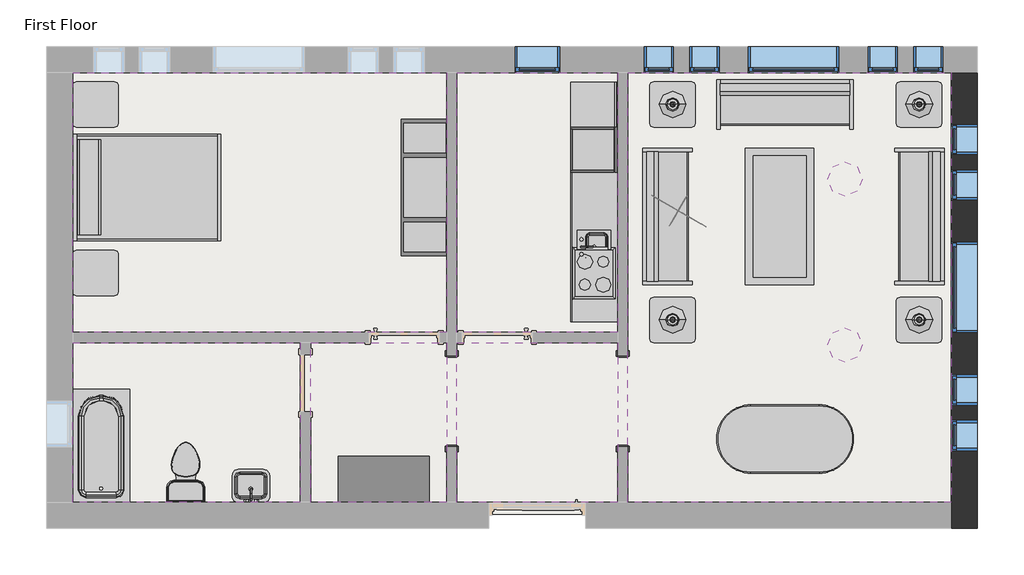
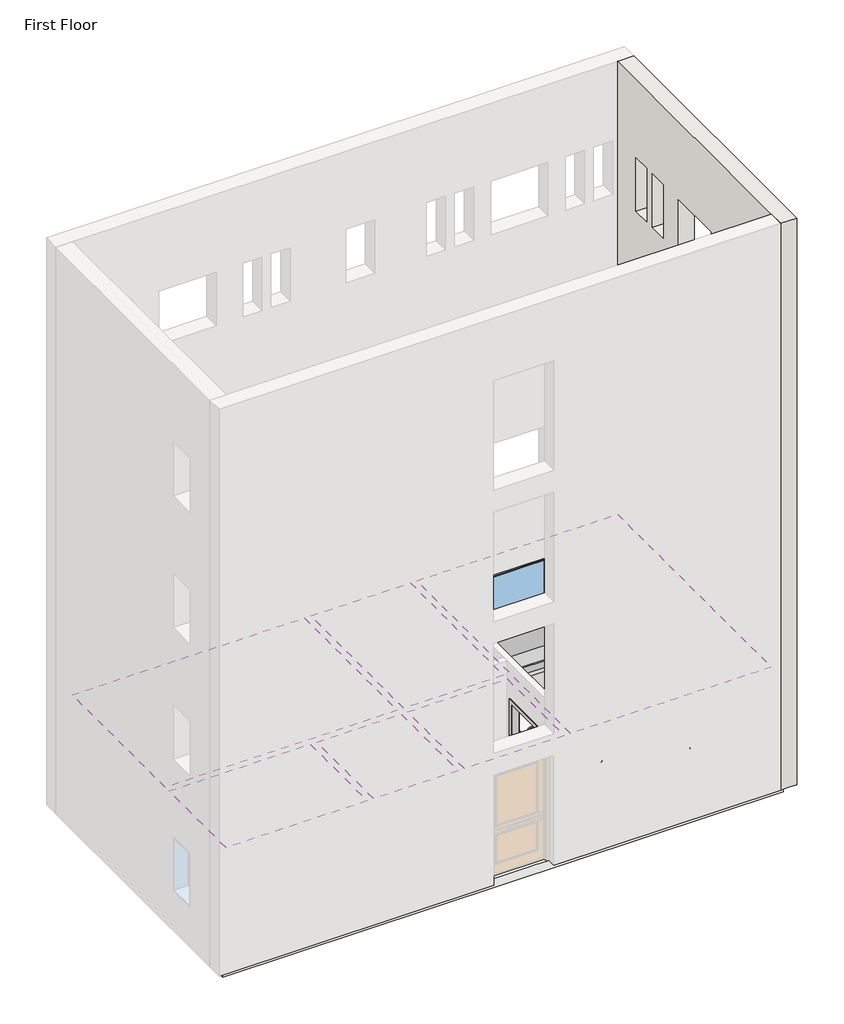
# One storey, part 2 of 2: 15 furniture elements, 11 windows, 7 proxies, 6 coverings, 6 light fixtures, 4 flow terminals, 1 slab, 1 wall.
"""IFC4 building model written with IfcOpenShell, lengths in millimetres."""

from ifc_helpers import new_model, si_unit, frame, origin, place, context, project, spatial, polyline, outline, extrude, faceted_brep, transform, mapped, element, save
from components import m_cook_top_4_unit2_0615_x_500mm_249f3515, m_dishwasher_610_x_610_x_875mm_54ecfc4c, m_kitchenette_medium_m_kitchenette_medium_3ff942c7, m_passage_opening_cased_1220_x_2134_mm_87a8d9c2, m_rpc_female_c3b5a3e1, m_refrigerator_600_x_660mm_a466bf94, m_sink_kitchen_island_450_x_450mm_f969cf2d, m_sink_vanity_square_500_x_440mm_1e229b74, m_toilet_domestic_3d_m_toilet_domestic_3d_5cb52bd4, m_toilet_domestic_3d_m_toilet_domestic_3d_183bbd19, m_tub_rectangular_3d_m_tub_rectangular_3d_3a981ad5, m_bed_shaker_1422_x_1981mm_double_096e7f55, m_counter_top_w_sink_hole_600mm_depth_8ccae52a, m_dresser_1220_x_1525_x_0610mm_18e1f140, m_entertainment_center_1830_x_1830_x_0610mm_f77a9b93, m_sofa_1830mm_f9e8a66b, m_table_coffee_0915_x_1830_x_0457mm_134cd960, m_table_dining_oval_0915_x_1830mm_a7cfbe21, m_table_end_0610_x_0160mm_cb6ea12e, m_pendant_light_disk_100w_120v_9a6b431c, m_table_lamp_standard_60w_120v_6e8cd8b1, m_fixed_0406_x_1220mm_57fee329, m_fixed_0406_x_1220mm_85c28f40, m_fixed_0610_x_1220mm_2c28ef1d, m_fixed_1220_x_1220_e08ff7af

model = new_model("IFC4")

# Units and contexts
model_context = context("Model", 3, world=origin())
ifc_project = project(units=[si_unit("LENGTHUNIT", "METRE", prefix="MILLI")], contexts=[model_context])

# Site, building, storey
site = spatial("IfcSite", under=ifc_project)
building = spatial("IfcBuilding", under=site)
storey = spatial("IfcBuildingStorey", under=building, Name="First Floor", Elevation=0.0)

# Proxies
placement = place(None, origin())
m_cook_top_4_unit2_0615_x_500mm_shape = m_cook_top_4_unit2_0615_x_500mm_249f3515(model_context)
element("IfcBuildingElementProxy", 1, Name="M_Cook Top-4 Unit2 : 0615 x 500mm", ObjectType="M_Cook Top-4 Unit2 : 0615 x 500mm", at=placement, inside=storey, context=model_context, shape_type="MappedRepresentation", body=[
    mapped(m_cook_top_4_unit2_0615_x_500mm_shape, transform((-11224.1822145, 11168.140104, 31.0), x_axis=(0.0, 1.0, 0.0), y_axis=(-1.0, 0.0, 0.0), z_axis=(0.0, 0.0, 1.0))),
])
m_dishwasher_610_x_610_x_875mm_shape = m_dishwasher_610_x_610_x_875mm_54ecfc4c(model_context)
element("IfcBuildingElementProxy", 2, Name="M_Dishwasher : 610 x 610 x 875mm", ObjectType="M_Dishwasher : 610 x 610 x 875mm", at=placement, inside=storey, context=model_context, shape_type="MappedRepresentation", body=[
    mapped(m_dishwasher_610_x_610_x_875mm_shape, transform((-10967.5326497, 13033.8726355, 0.0), x_axis=(0.0, 1.0, 0.0), y_axis=(-1.0, 0.0, 0.0), z_axis=(0.0, 0.0, 1.0))),
])
m_kitchenette_medium_m_kitchenette_medium_shape = m_kitchenette_medium_m_kitchenette_medium_3ff942c7(model_context)
element("IfcBuildingElementProxy", 3, Name="M_Kitchenette - Medium : M_Kitchenette - Medium", ObjectType="M_Kitchenette - Medium : M_Kitchenette - Medium", at=placement, inside=storey, context=model_context, shape_type="MappedRepresentation", body=[
    mapped(m_kitchenette_medium_m_kitchenette_medium_shape, transform((-11539.1822145, 11797.152399, 0.0), x_axis=(0.0, 1.0, 0.0), y_axis=(-1.0, 0.0, 0.0), z_axis=(0.0, 0.0, 1.0))),
])
m_passage_opening_cased_1220_x_2134_mm_shape = m_passage_opening_cased_1220_x_2134_mm_87a8d9c2(model_context)
element("IfcBuildingElementProxy", 4, Name="M_Passage Opening-Cased : 1220 x 2134 mm", ObjectType="M_Passage Opening-Cased : 1220 x 2134 mm", at=placement, inside=storey, context=model_context, shape_type="MappedRepresentation", body=[
    mapped(m_passage_opening_cased_1220_x_2134_mm_shape, transform((-10841.0930086, 9462.255705, 0.0), x_axis=(0.0, 1.0, 0.0), y_axis=(-1.0, 0.0, 0.0), z_axis=(0.0, 0.0, 1.0))),
])
element("IfcBuildingElementProxy", 5, Name="M_Passage Opening-Cased : 1220 x 2134 mm", ObjectType="M_Passage Opening-Cased : 1220 x 2134 mm", at=placement, inside=storey, context=model_context, shape_type="MappedRepresentation", body=[
    mapped(m_passage_opening_cased_1220_x_2134_mm_shape, transform((-13127.0930086, 9445.8783915, 0.0), x_axis=(0.0, -1.0, 0.0), y_axis=(1.0, 0.0, 0.0), z_axis=(0.0, 0.0, 1.0))),
])
m_rpc_female_shape = m_rpc_female_c3b5a3e1(model_context)
element("IfcBuildingElementProxy", 6, Name="M_RPC Female : Cynthia", ObjectType="M_RPC Female : Cynthia", at=placement, inside=storey, context=model_context, shape_type="MappedRepresentation", body=[
    mapped(m_rpc_female_shape, transform((-9964.1464381, 11920.1949505, 0.0), x_axis=(-0.5000000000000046, -0.8660254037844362, 0.0), y_axis=(0.8660254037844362, -0.5000000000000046, 0.0), z_axis=(0.0, 0.0, 1.0))),
])
m_refrigerator_600_x_660mm_shape = m_refrigerator_600_x_660mm_a466bf94(model_context)
element("IfcBuildingElementProxy", 7, Name="M_Refrigerator : 600 x 660mm", ObjectType="M_Refrigerator : 600 x 660mm", at=placement, inside=storey, context=model_context, shape_type="MappedRepresentation", body=[
    mapped(m_refrigerator_600_x_660mm_shape, transform((-11242.9671243, 12874.1912466, 0.0), x_axis=(0.0, 1.0, 0.0), y_axis=(-1.0, 0.0, 0.0), z_axis=(0.0, 0.0, 1.0))),
])

# Coverings
element("IfcCovering", 8, ObjectType="Plain", at=placement, inside=storey, context=model_context, shape_type="SweptSolid", body=[
    extrude(outline(polyline([(-18201.8430086, 13851.0670483), (-13194.8430086, 13851.0670483), (-13194.8430086, 10374.5670483), (-18201.8430086, 10374.5670483), (-18201.8430086, 13851.0670483)])), frame((0.0, 0.0, 2590.0), z_axis=(0.0, 0.0, 1.0), x_axis=(1.0, 0.0, 0.0)), (0.0, 0.0, 1.0), 57.0),
])
element("IfcCovering", 9, ObjectType="Plain", at=placement, inside=storey, context=model_context, shape_type="SweptSolid", body=[
    extrude(outline(polyline([(-13059.3430086, 10374.5670483), (-13059.3430086, 13851.0670483), (-10908.8430086, 13851.0670483), (-10908.8430086, 10374.5670483), (-13059.3430086, 10374.5670483)])), frame((0.0, 0.0, 2590.0), z_axis=(0.0, 0.0, 1.0), x_axis=(1.0, 0.0, 0.0)), (0.0, 0.0, 1.0), 57.0),
])
element("IfcCovering", 10, ObjectType="Plain", at=placement, inside=storey, context=model_context, shape_type="SweptSolid", body=[
    extrude(outline(polyline([(-10773.3430086, 8105.0670483), (-10773.3430086, 13851.0670483), (-6444.0930086, 13851.0670483), (-6444.0930086, 8105.0670483), (-10773.3430086, 8105.0670483)])), frame((0.0, 0.0, 2590.0), z_axis=(0.0, 0.0, 1.0), x_axis=(1.0, 0.0, 0.0)), (0.0, 0.0, 1.0), 57.0),
])
element("IfcCovering", 11, ObjectType="Plain", at=placement, inside=storey, context=model_context, shape_type="SweptSolid", body=[
    extrude(outline(polyline([(-10908.8430086, 8105.0670483), (-13059.3430086, 8105.0670483), (-13059.3430086, 10239.0670483), (-10908.8430086, 10239.0670483), (-10908.8430086, 8105.0670483)])), frame((0.0, 0.0, 2590.0), z_axis=(0.0, 0.0, 1.0), x_axis=(1.0, 0.0, 0.0)), (0.0, 0.0, 1.0), 57.0),
])
element("IfcCovering", 12, ObjectType="Plain", at=placement, inside=storey, context=model_context, shape_type="SweptSolid", body=[
    extrude(outline(polyline([(-13194.8430086, 8105.0670483), (-15018.3430086, 8105.0670483), (-15018.3430086, 10239.0670483), (-13194.8430086, 10239.0670483), (-13194.8430086, 8105.0670483)])), frame((0.0, 0.0, 2590.0), z_axis=(0.0, 0.0, 1.0), x_axis=(1.0, 0.0, 0.0)), (0.0, 0.0, 1.0), 57.0),
])
element("IfcCovering", 13, ObjectType="Plain", at=placement, inside=storey, context=model_context, shape_type="SweptSolid", body=[
    extrude(outline(polyline([(-15153.8430086, 10239.0670483), (-15153.8430086, 8105.0670483), (-18201.8430086, 8105.0670483), (-18201.8430086, 10239.0670483), (-15153.8430086, 10239.0670483)])), frame((0.0, 0.0, 2590.0), z_axis=(0.0, 0.0, 1.0), x_axis=(1.0, 0.0, 0.0)), (0.0, 0.0, 1.0), 57.0),
])

# Flow terminals
m_sink_kitchen_island_450_x_450mm_shape = m_sink_kitchen_island_450_x_450mm_f969cf2d(model_context)
element("IfcFlowTerminal", 14, ObjectType="M_Sink Kitchen-Island : 450 x 450mm", at=placement, inside=storey, context=model_context, shape_type="MappedRepresentation", body=[
    mapped(m_sink_kitchen_island_450_x_450mm_shape, transform((-11223.7368134, 11504.7008634, 31.0), x_axis=(0.0, 1.0, 0.0), y_axis=(-1.0, 0.0, 0.0), z_axis=(0.0, 0.0, 1.0))),
])
m_sink_vanity_square_500_x_440mm_shape = m_sink_vanity_square_500_x_440mm_1e229b74(model_context)
element("IfcFlowTerminal", 15, ObjectType="M_Sink Vanity-Square : 500 x 440mm", at=placement, inside=storey, context=model_context, shape_type="MappedRepresentation", body=[
    mapped(m_sink_vanity_square_500_x_440mm_shape, transform((-15802.3094072, 8285.2124494, 0.0), x_axis=(-1.0, 0.0, 0.0), y_axis=(0.0, -1.0, 0.0), z_axis=(0.0, 0.0, 1.0))),
])
m_toilet_domestic_3d_m_toilet_domestic_3d_shape = m_toilet_domestic_3d_m_toilet_domestic_3d_5cb52bd4(model_context)
m_toilet_domestic_3d_m_toilet_domestic_3d_2_shape = m_toilet_domestic_3d_m_toilet_domestic_3d_183bbd19(model_context)
element("IfcFlowTerminal", 16, ObjectType="M_Toilet-Domestic-3D : M_Toilet-Domestic-3D", at=placement, inside=storey, context=model_context, shape_type="MappedRepresentation", body=[
    mapped(m_toilet_domestic_3d_m_toilet_domestic_3d_shape, transform((-16689.489036, 8599.7630756, 0.0), x_axis=(-1.0, 0.0, 0.0), y_axis=(0.0, -1.0, 0.0), z_axis=(0.0, 0.0, 1.0))),
    mapped(m_toilet_domestic_3d_m_toilet_domestic_3d_2_shape, transform((-16689.489036, 8599.7630756, 0.0), x_axis=(-1.0, 0.0, 0.0), y_axis=(0.0, -1.0, 0.0), z_axis=(0.0, 0.0, 1.0))),
])
m_tub_rectangular_3d_m_tub_rectangular_3d_shape = m_tub_rectangular_3d_m_tub_rectangular_3d_3a981ad5(model_context)
element("IfcFlowTerminal", 17, ObjectType="M_Tub-Rectangular-3D : M_Tub-Rectangular-3D", at=placement, inside=storey, context=model_context, shape_type="MappedRepresentation", body=[
    mapped(m_tub_rectangular_3d_m_tub_rectangular_3d_shape, transform((-18376.8430086, 9198.170017, 0.0), x_axis=(0.0, 1.0, 0.0), y_axis=(-1.0, 0.0, 0.0), z_axis=(0.0, 0.0, 1.0))),
])

# Furniture
m_bed_shaker_1422_x_1981mm_double_shape = m_bed_shaker_1422_x_1981mm_double_096e7f55(model_context)
element("IfcFurniture", 18, ObjectType="M_Bed-Shaker : 1422 x 1981mm - Double", at=placement, inside=storey, context=model_context, shape_type="MappedRepresentation", body=[
    mapped(m_bed_shaker_1422_x_1981mm_double_shape, transform((-18201.8430086, 12334.7295483, 0.0), x_axis=(0.0, 1.0, 0.0), y_axis=(-1.0, 0.0, 0.0), z_axis=(0.0, 0.0, 1.0))),
])
m_counter_top_w_sink_hole_600mm_depth_shape = m_counter_top_w_sink_hole_600mm_depth_8ccae52a(model_context)
element("IfcFurniture", 19, ObjectType="M_Counter Top w Sink Hole : 600mm Depth", at=placement, inside=storey, context=model_context, shape_type="MappedRepresentation", body=[
    mapped(m_counter_top_w_sink_hole_600mm_depth_shape, transform((-11539.1822145, 11720.852399, 31.0), x_axis=(0.0, 1.0, 0.0), y_axis=(-1.0, 0.0, 0.0), z_axis=(0.0, 0.0, 1.0))),
])
m_dresser_1220_x_1525_x_0610mm_shape = m_dresser_1220_x_1525_x_0610mm_18e1f140(model_context)
element("IfcFurniture", 20, ObjectType="M_Dresser : 1220 x 1525 x 0610mm", at=placement, inside=storey, context=model_context, shape_type="MappedRepresentation", body=[
    mapped(m_dresser_1220_x_1525_x_0610mm_shape, transform((-13767.8997488, 8773.2300024, 0.0), x_axis=(1.0, 0.0, 0.0), y_axis=(0.0, 1.0, 0.0), z_axis=(0.0, 0.0, 1.0))),
])
m_entertainment_center_1830_x_1830_x_0610mm_shape = m_entertainment_center_1830_x_1830_x_0610mm_f77a9b93(model_context)
element("IfcFurniture", 21, ObjectType="M_Entertainment center : 1830 x 1830 x 0610mm", at=placement, inside=storey, context=model_context, shape_type="MappedRepresentation", body=[
    mapped(m_entertainment_center_1830_x_1830_x_0610mm_shape, transform((-13906.2430086, 12315.6795483, 0.0), x_axis=(0.0, 1.0, 0.0), y_axis=(-1.0, 0.0, 0.0), z_axis=(0.0, 0.0, 1.0))),
])
m_sofa_1830mm_shape = m_sofa_1830mm_f9e8a66b(model_context)
element("IfcFurniture", 22, ObjectType="M_Sofa : 1830mm", at=placement, inside=storey, context=model_context, shape_type="MappedRepresentation", body=[
    mapped(m_sofa_1830mm_shape, transform((-8739.4635004, 13279.9129499, 0.0), x_axis=(1.0, 0.0, 0.0), y_axis=(0.0, 1.0, 0.0), z_axis=(0.0, 0.0, 1.0))),
])
element("IfcFurniture", 23, ObjectType="M_Sofa : 1830mm", at=placement, inside=storey, context=model_context, shape_type="MappedRepresentation", body=[
    mapped(m_sofa_1830mm_shape, transform((-7015.247107, 11996.4375401, 0.0), x_axis=(0.0, -1.0, 0.0), y_axis=(1.0, 0.0, 0.0), z_axis=(0.0, 0.0, 1.0))),
])
element("IfcFurniture", 24, ObjectType="M_Sofa : 1830mm", at=placement, inside=storey, context=model_context, shape_type="MappedRepresentation", body=[
    mapped(m_sofa_1830mm_shape, transform((-10094.9389103, 11855.6965565, 0.0), x_axis=(0.0, 1.0, 0.0), y_axis=(-1.0, 0.0, 0.0), z_axis=(0.0, 0.0, 1.0))),
])
m_table_coffee_0915_x_1830_x_0457mm_shape = m_table_coffee_0915_x_1830_x_0457mm_134cd960(model_context)
element("IfcFurniture", 25, ObjectType="M_Table-Coffee : 0915 x 1830 x 0457mm", at=placement, inside=storey, context=model_context, shape_type="MappedRepresentation", body=[
    mapped(m_table_coffee_0915_x_1830_x_0457mm_shape, transform((-8645.8819308, 11907.8012816, 0.0), x_axis=(0.0, 1.0, 0.0), y_axis=(-1.0, 0.0, 0.0), z_axis=(0.0, 0.0, 1.0))),
])
m_table_dining_oval_0915_x_1830mm_shape = m_table_dining_oval_0915_x_1830mm_a7cfbe21(model_context)
element("IfcFurniture", 26, ObjectType="M_Table-Dining Oval : 0915 x 1830mm", at=placement, inside=storey, context=model_context, shape_type="MappedRepresentation", body=[
    mapped(m_table_dining_oval_0915_x_1830mm_shape, transform((-8267.2733365, 9307.4154089, 0.0), x_axis=(1.0, 0.0, 0.0), y_axis=(0.0, 1.0, 0.0), z_axis=(0.0, 0.0, 1.0))),
])
m_table_end_0610_x_0160mm_shape = m_table_end_0610_x_0160mm_cb6ea12e(model_context)
element("IfcFurniture", 27, ObjectType="M_Table-End : 0610 x 0160mm", at=placement, inside=storey, context=model_context, shape_type="MappedRepresentation", body=[
    mapped(m_table_end_0610_x_0160mm_shape, transform((-10482.8266389, 13273.6670483, 0.0), x_axis=(1.0, 0.0, 0.0), y_axis=(0.0, 1.0, 0.0), z_axis=(0.0, 0.0, 1.0))),
])
element("IfcFurniture", 28, ObjectType="M_Table-End : 0610 x 0160mm", at=placement, inside=storey, context=model_context, shape_type="MappedRepresentation", body=[
    mapped(m_table_end_0610_x_0160mm_shape, transform((-7182.8266389, 13273.6670483, 0.0), x_axis=(1.0, 0.0, 0.0), y_axis=(0.0, 1.0, 0.0), z_axis=(0.0, 0.0, 1.0))),
])
element("IfcFurniture", 29, ObjectType="M_Table-End : 0610 x 0160mm", at=placement, inside=storey, context=model_context, shape_type="MappedRepresentation", body=[
    mapped(m_table_end_0610_x_0160mm_shape, transform((-7182.8266389, 10391.6670483, 0.0), x_axis=(1.0, 0.0, 0.0), y_axis=(0.0, 1.0, 0.0), z_axis=(0.0, 0.0, 1.0))),
])
element("IfcFurniture", 30, ObjectType="M_Table-End : 0610 x 0160mm", at=placement, inside=storey, context=model_context, shape_type="MappedRepresentation", body=[
    mapped(m_table_end_0610_x_0160mm_shape, transform((-10482.8266389, 10391.6670483, 0.0), x_axis=(1.0, 0.0, 0.0), y_axis=(0.0, 1.0, 0.0), z_axis=(0.0, 0.0, 1.0))),
])
element("IfcFurniture", 31, ObjectType="M_Table-End : 0610 x 0160mm", at=placement, inside=storey, context=model_context, shape_type="MappedRepresentation", body=[
    mapped(m_table_end_0610_x_0160mm_shape, transform((-18205.5766389, 13273.6670483, 0.0), x_axis=(1.0, 0.0, 0.0), y_axis=(0.0, 1.0, 0.0), z_axis=(0.0, 0.0, 1.0))),
])
element("IfcFurniture", 32, ObjectType="M_Table-End : 0610 x 0160mm", at=placement, inside=storey, context=model_context, shape_type="MappedRepresentation", body=[
    mapped(m_table_end_0610_x_0160mm_shape, transform((-18205.5766389, 11018.6670483, 0.0), x_axis=(1.0, 0.0, 0.0), y_axis=(0.0, 1.0, 0.0), z_axis=(0.0, 0.0, 1.0))),
])

# Light fixtures
m_pendant_light_disk_100w_120v_shape = m_pendant_light_disk_100w_120v_9a6b431c(model_context)
element("IfcLightFixture", 33, ObjectType="M_Pendant Light - Disk : 100W - 120V", at=placement, inside=storey, context=model_context, shape_type="MappedRepresentation", body=[
    mapped(m_pendant_light_disk_100w_120v_shape, transform((-7869.0930086, 12426.0670483, 751.5999938), x_axis=(1.0, 0.0, 0.0), y_axis=(0.0, 1.0, 0.0), z_axis=(0.0, 0.0, 1.0))),
])
element("IfcLightFixture", 34, ObjectType="M_Pendant Light - Disk : 100W - 120V", at=placement, inside=storey, context=model_context, shape_type="MappedRepresentation", body=[
    mapped(m_pendant_light_disk_100w_120v_shape, transform((-7869.0930086, 10206.8170483, 751.5999938), x_axis=(1.0, 0.0, 0.0), y_axis=(0.0, 1.0, 0.0), z_axis=(0.0, 0.0, 1.0))),
])
m_table_lamp_standard_60w_120v_shape = m_table_lamp_standard_60w_120v_6e8cd8b1(model_context)
element("IfcLightFixture", 35, ObjectType="M_Table Lamp - Standard : 60W - 120V", at=placement, inside=storey, context=model_context, shape_type="MappedRepresentation", body=[
    mapped(m_table_lamp_standard_60w_120v_shape, transform((-6874.0930086, 10544.0670483, 381.0), x_axis=(1.0, 0.0, 0.0), y_axis=(0.0, 1.0, 0.0), z_axis=(0.0, 0.0, 1.0))),
])
element("IfcLightFixture", 36, ObjectType="M_Table Lamp - Standard : 60W - 120V", at=placement, inside=storey, context=model_context, shape_type="MappedRepresentation", body=[
    mapped(m_table_lamp_standard_60w_120v_shape, transform((-10174.0930086, 10544.0670483, 381.0), x_axis=(1.0, 0.0, 0.0), y_axis=(0.0, 1.0, 0.0), z_axis=(0.0, 0.0, 1.0))),
])
element("IfcLightFixture", 37, ObjectType="M_Table Lamp - Standard : 60W - 120V", at=placement, inside=storey, context=model_context, shape_type="MappedRepresentation", body=[
    mapped(m_table_lamp_standard_60w_120v_shape, transform((-10174.0930086, 13426.0670483, 381.0), x_axis=(1.0, 0.0, 0.0), y_axis=(0.0, 1.0, 0.0), z_axis=(0.0, 0.0, 1.0))),
])
element("IfcLightFixture", 38, ObjectType="M_Table Lamp - Standard : 60W - 120V", at=placement, inside=storey, context=model_context, shape_type="MappedRepresentation", body=[
    mapped(m_table_lamp_standard_60w_120v_shape, transform((-6874.0930086, 13426.0670483, 381.0), x_axis=(1.0, 0.0, 0.0), y_axis=(0.0, 1.0, 0.0), z_axis=(0.0, 0.0, 1.0))),
])

# Slab
element("IfcSlab", 39, ObjectType="160mm Concrete With 50mm Metal Deck", at=placement, inside=storey, context=model_context, shape_type="SweptSolid", body=[
    extrude(outline(polyline([(-6279.0930086, 14016.0670483), (-6279.0930086, 7940.0670483), (-18366.8430086, 7940.0670483), (-18366.8430086, 14016.0670483), (-6279.0930086, 14016.0670483)])), frame((0.0, 0.0, -210.0), z_axis=(0.0, 0.0, 1.0), x_axis=(1.0, 0.0, 0.0)), (0.0, 0.0, 1.0), 210.0),
])

# Wall
element("IfcWall", 40, ObjectType="Exterior - Brick on Mtl. Stud", at=placement, inside=storey, context=model_context, shape_type="Brep", body=[
    faceted_brep([(-6444.0930086, 13851.0670483, 0.0), (-6444.0930086, 8105.0670483, 0.0), (-6444.0930086, 7940.0670483, 0.0), (-6444.0930086, 7755.0670483, 0.0), (-6444.0930086, 7755.0670483, 12915.0), (-6444.0930086, 8105.0670483, 12915.0), (-6444.0930086, 13851.0670483, 12915.0), (-6444.0930086, 10368.0670483, 915.0), (-6444.0930086, 11588.0670483, 915.0), (-6444.0930086, 11588.0670483, 2135.0), (-6444.0930086, 10368.0670483, 2135.0), (-6444.0930086, 12756.2670483, 915.0), (-6444.0930086, 13162.2670483, 915.0), (-6444.0930086, 13162.2670483, 2135.0), (-6444.0930086, 12756.2670483, 2135.0), (-6444.0930086, 12146.6670483, 915.0), (-6444.0930086, 12552.6670483, 915.0), (-6444.0930086, 12552.6670483, 2135.0), (-6444.0930086, 12146.6670483, 2135.0), (-6444.0930086, 9199.8670483, 915.0), (-6444.0930086, 9199.8670483, 2135.0), (-6444.0930086, 8793.8670483, 2135.0), (-6444.0930086, 8793.8670483, 915.0), (-6444.0930086, 9809.4670483, 915.0), (-6444.0930086, 9809.4670483, 2135.0), (-6444.0930086, 9403.4670483, 2135.0), (-6444.0930086, 9403.4670483, 915.0), (-6444.0930086, 9199.8670483, 9915.0), (-6444.0930086, 9199.8670483, 11135.0), (-6444.0930086, 8793.8670483, 11135.0), (-6444.0930086, 8793.8670483, 9915.0), (-6444.0930086, 9809.4670483, 9915.0), (-6444.0930086, 9809.4670483, 11135.0), (-6444.0930086, 9403.4670483, 11135.0), (-6444.0930086, 9403.4670483, 9915.0), (-6444.0930086, 12756.2670483, 9915.0), (-6444.0930086, 13162.2670483, 9915.0), (-6444.0930086, 13162.2670483, 11135.0), (-6444.0930086, 12756.2670483, 11135.0), (-6444.0930086, 12146.6670483, 9915.0), (-6444.0930086, 12552.6670483, 9915.0), (-6444.0930086, 12552.6670483, 11135.0), (-6444.0930086, 12146.6670483, 11135.0), (-6444.0930086, 10368.0670483, 9915.0), (-6444.0930086, 11588.0670483, 9915.0), (-6444.0930086, 11588.0670483, 11135.0), (-6444.0930086, 10368.0670483, 11135.0), (-6444.0930086, 9199.8670483, 3915.0), (-6444.0930086, 9199.8670483, 5135.0), (-6444.0930086, 8793.8670483, 5135.0), (-6444.0930086, 8793.8670483, 3915.0), (-6444.0930086, 9809.4670483, 3915.0), (-6444.0930086, 9809.4670483, 5135.0), (-6444.0930086, 9403.4670483, 5135.0), (-6444.0930086, 9403.4670483, 3915.0), (-6444.0930086, 12756.2670483, 3915.0), (-6444.0930086, 13162.2670483, 3915.0), (-6444.0930086, 13162.2670483, 5135.0), (-6444.0930086, 12756.2670483, 5135.0), (-6444.0930086, 12146.6670483, 3915.0), (-6444.0930086, 12552.6670483, 3915.0), (-6444.0930086, 12552.6670483, 5135.0), (-6444.0930086, 12146.6670483, 5135.0), (-6444.0930086, 10368.0670483, 3915.0), (-6444.0930086, 11588.0670483, 3915.0), (-6444.0930086, 11588.0670483, 5135.0), (-6444.0930086, 10368.0670483, 5135.0), (-6444.0930086, 9199.8670483, 6915.0), (-6444.0930086, 9199.8670483, 8135.0), (-6444.0930086, 8793.8670483, 8135.0), (-6444.0930086, 8793.8670483, 6915.0), (-6444.0930086, 9809.4670483, 6915.0), (-6444.0930086, 9809.4670483, 8135.0), (-6444.0930086, 9403.4670483, 8135.0), (-6444.0930086, 9403.4670483, 6915.0), (-6444.0930086, 12756.2670483, 6915.0), (-6444.0930086, 13162.2670483, 6915.0), (-6444.0930086, 13162.2670483, 8135.0), (-6444.0930086, 12756.2670483, 8135.0), (-6444.0930086, 12146.6670483, 6915.0), (-6444.0930086, 12552.6670483, 6915.0), (-6444.0930086, 12552.6670483, 8135.0), (-6444.0930086, 12146.6670483, 8135.0), (-6444.0930086, 10368.0670483, 6915.0), (-6444.0930086, 11588.0670483, 6915.0), (-6444.0930086, 11588.0670483, 8135.0), (-6444.0930086, 10368.0670483, 8135.0), (-6094.0930086, 13851.0670483, 0.0), (-6094.0930086, 13851.0670483, 12915.0), (-6094.0930086, 7755.0670483, 12915.0), (-6094.0930086, 7755.0670483, 0.0), (-6094.0930086, 7940.0670483, 0.0), (-6094.0930086, 10368.0670483, 915.0), (-6094.0930086, 10368.0670483, 2135.0), (-6094.0930086, 11588.0670483, 2135.0), (-6094.0930086, 11588.0670483, 915.0), (-6094.0930086, 12756.2670483, 915.0), (-6094.0930086, 12756.2670483, 2135.0), (-6094.0930086, 13162.2670483, 2135.0), (-6094.0930086, 13162.2670483, 915.0), (-6094.0930086, 12146.6670483, 915.0), (-6094.0930086, 12146.6670483, 2135.0), (-6094.0930086, 12552.6670483, 2135.0), (-6094.0930086, 12552.6670483, 915.0), (-6094.0930086, 9199.8670483, 915.0), (-6094.0930086, 8793.8670483, 915.0), (-6094.0930086, 8793.8670483, 2135.0), (-6094.0930086, 9199.8670483, 2135.0), (-6094.0930086, 9809.4670483, 915.0), (-6094.0930086, 9403.4670483, 915.0), (-6094.0930086, 9403.4670483, 2135.0), (-6094.0930086, 9809.4670483, 2135.0), (-6094.0930086, 9199.8670483, 9915.0), (-6094.0930086, 8793.8670483, 9915.0), (-6094.0930086, 8793.8670483, 11135.0), (-6094.0930086, 9199.8670483, 11135.0), (-6094.0930086, 9809.4670483, 9915.0), (-6094.0930086, 9403.4670483, 9915.0), (-6094.0930086, 9403.4670483, 11135.0), (-6094.0930086, 9809.4670483, 11135.0), (-6094.0930086, 12756.2670483, 9915.0), (-6094.0930086, 12756.2670483, 11135.0), (-6094.0930086, 13162.2670483, 11135.0), (-6094.0930086, 13162.2670483, 9915.0), (-6094.0930086, 12146.6670483, 9915.0), (-6094.0930086, 12146.6670483, 11135.0), (-6094.0930086, 12552.6670483, 11135.0), (-6094.0930086, 12552.6670483, 9915.0), (-6094.0930086, 10368.0670483, 9915.0), (-6094.0930086, 10368.0670483, 11135.0), (-6094.0930086, 11588.0670483, 11135.0), (-6094.0930086, 11588.0670483, 9915.0), (-6094.0930086, 9199.8670483, 3915.0), (-6094.0930086, 8793.8670483, 3915.0), (-6094.0930086, 8793.8670483, 5135.0), (-6094.0930086, 9199.8670483, 5135.0), (-6094.0930086, 9809.4670483, 3915.0), (-6094.0930086, 9403.4670483, 3915.0), (-6094.0930086, 9403.4670483, 5135.0), (-6094.0930086, 9809.4670483, 5135.0), (-6094.0930086, 12756.2670483, 3915.0), (-6094.0930086, 12756.2670483, 5135.0), (-6094.0930086, 13162.2670483, 5135.0), (-6094.0930086, 13162.2670483, 3915.0), (-6094.0930086, 12146.6670483, 3915.0), (-6094.0930086, 12146.6670483, 5135.0), (-6094.0930086, 12552.6670483, 5135.0), (-6094.0930086, 12552.6670483, 3915.0), (-6094.0930086, 10368.0670483, 3915.0), (-6094.0930086, 10368.0670483, 5135.0), (-6094.0930086, 11588.0670483, 5135.0), (-6094.0930086, 11588.0670483, 3915.0), (-6094.0930086, 9199.8670483, 6915.0), (-6094.0930086, 8793.8670483, 6915.0), (-6094.0930086, 8793.8670483, 8135.0), (-6094.0930086, 9199.8670483, 8135.0), (-6094.0930086, 9809.4670483, 6915.0), (-6094.0930086, 9403.4670483, 6915.0), (-6094.0930086, 9403.4670483, 8135.0), (-6094.0930086, 9809.4670483, 8135.0), (-6094.0930086, 12756.2670483, 6915.0), (-6094.0930086, 12756.2670483, 8135.0), (-6094.0930086, 13162.2670483, 8135.0), (-6094.0930086, 13162.2670483, 6915.0), (-6094.0930086, 12146.6670483, 6915.0), (-6094.0930086, 12146.6670483, 8135.0), (-6094.0930086, 12552.6670483, 8135.0), (-6094.0930086, 12552.6670483, 6915.0), (-6094.0930086, 10368.0670483, 6915.0), (-6094.0930086, 10368.0670483, 8135.0), (-6094.0930086, 11588.0670483, 8135.0), (-6094.0930086, 11588.0670483, 6915.0), (-6279.0930086, 13851.0670483, 0.0), (-6279.0930086, 7755.0670483, 0.0), (-6279.0930086, 7940.0670483, 0.0)], [[[0, 1, 2, 3, 4, 5, 6], [7, 8, 9, 10], [11, 12, 13, 14], [15, 16, 17, 18], [19, 20, 21, 22], [23, 24, 25, 26], [27, 28, 29, 30], [31, 32, 33, 34], [35, 36, 37, 38], [39, 40, 41, 42], [43, 44, 45, 46], [47, 48, 49, 50], [51, 52, 53, 54], [55, 56, 57, 58], [59, 60, 61, 62], [63, 64, 65, 66], [67, 68, 69, 70], [71, 72, 73, 74], [75, 76, 77, 78], [79, 80, 81, 82], [83, 84, 85, 86]], [[87, 88, 89, 90, 91], [92, 93, 94, 95], [96, 97, 98, 99], [100, 101, 102, 103], [104, 105, 106, 107], [108, 109, 110, 111], [112, 113, 114, 115], [116, 117, 118, 119], [120, 121, 122, 123], [124, 125, 126, 127], [128, 129, 130, 131], [132, 133, 134, 135], [136, 137, 138, 139], [140, 141, 142, 143], [144, 145, 146, 147], [148, 149, 150, 151], [152, 153, 154, 155], [156, 157, 158, 159], [160, 161, 162, 163], [164, 165, 166, 167], [168, 169, 170, 171]], [[6, 5, 4, 89, 88]], [[0, 6, 88, 87, 172]], [[4, 3, 173, 90, 89]], [[93, 92, 7, 10]], [[94, 93, 10, 9]], [[95, 94, 9, 8]], [[92, 95, 8, 7]], [[97, 96, 11, 14]], [[98, 97, 14, 13]], [[99, 98, 13, 12]], [[96, 99, 12, 11]], [[101, 100, 15, 18]], [[102, 101, 18, 17]], [[103, 102, 17, 16]], [[100, 103, 16, 15]], [[20, 19, 104, 107]], [[21, 20, 107, 106]], [[22, 21, 106, 105]], [[19, 22, 105, 104]], [[24, 23, 108, 111]], [[25, 24, 111, 110]], [[26, 25, 110, 109]], [[23, 26, 109, 108]], [[172, 87, 91, 174]], [[3, 2, 174, 173]], [[174, 91, 90, 173]], [[2, 1, 0, 172, 174]], [[28, 27, 112, 115]], [[29, 28, 115, 114]], [[30, 29, 114, 113]], [[27, 30, 113, 112]], [[32, 31, 116, 119]], [[33, 32, 119, 118]], [[34, 33, 118, 117]], [[31, 34, 117, 116]], [[121, 120, 35, 38]], [[122, 121, 38, 37]], [[123, 122, 37, 36]], [[120, 123, 36, 35]], [[125, 124, 39, 42]], [[126, 125, 42, 41]], [[127, 126, 41, 40]], [[124, 127, 40, 39]], [[129, 128, 43, 46]], [[130, 129, 46, 45]], [[131, 130, 45, 44]], [[128, 131, 44, 43]], [[48, 47, 132, 135]], [[49, 48, 135, 134]], [[50, 49, 134, 133]], [[47, 50, 133, 132]], [[52, 51, 136, 139]], [[53, 52, 139, 138]], [[54, 53, 138, 137]], [[51, 54, 137, 136]], [[141, 140, 55, 58]], [[142, 141, 58, 57]], [[143, 142, 57, 56]], [[140, 143, 56, 55]], [[145, 144, 59, 62]], [[146, 145, 62, 61]], [[147, 146, 61, 60]], [[144, 147, 60, 59]], [[149, 148, 63, 66]], [[150, 149, 66, 65]], [[151, 150, 65, 64]], [[148, 151, 64, 63]], [[68, 67, 152, 155]], [[69, 68, 155, 154]], [[70, 69, 154, 153]], [[67, 70, 153, 152]], [[72, 71, 156, 159]], [[73, 72, 159, 158]], [[74, 73, 158, 157]], [[71, 74, 157, 156]], [[161, 160, 75, 78]], [[162, 161, 78, 77]], [[163, 162, 77, 76]], [[160, 163, 76, 75]], [[165, 164, 79, 82]], [[166, 165, 82, 81]], [[167, 166, 81, 80]], [[164, 167, 80, 79]], [[169, 168, 83, 86]], [[170, 169, 86, 85]], [[171, 170, 85, 84]], [[168, 171, 84, 83]]]),
])

# Windows
m_fixed_0406_x_1220mm_shape = m_fixed_0406_x_1220mm_57fee329(model_context)
element("IfcWindow", 41, ObjectType="M_Fixed : 0406 x 1220mm", at=placement, inside=storey, context=model_context, shape_type="MappedRepresentation", body=[
    mapped(m_fixed_0406_x_1220mm_shape, transform((-9748.4930086, 14039.0670483, 0.0), x_axis=(-1.0, 0.0, 0.0), y_axis=(0.0, -1.0, 0.0), z_axis=(0.0, 0.0, 1.0))),
])
element("IfcWindow", 42, ObjectType="M_Fixed : 0406 x 1220mm", at=placement, inside=storey, context=model_context, shape_type="MappedRepresentation", body=[
    mapped(m_fixed_0406_x_1220mm_shape, transform((-10358.0930086, 14039.0670483, 0.0), x_axis=(-1.0, 0.0, 0.0), y_axis=(0.0, -1.0, 0.0), z_axis=(0.0, 0.0, 1.0))),
])
element("IfcWindow", 43, ObjectType="M_Fixed : 0406 x 1220mm", at=placement, inside=storey, context=model_context, shape_type="MappedRepresentation", body=[
    mapped(m_fixed_0406_x_1220mm_shape, transform((-6256.0930086, 12349.6670483, 0.0), x_axis=(0.0, 1.0, 0.0), y_axis=(-1.0, 0.0, 0.0), z_axis=(0.0, 0.0, 1.0))),
])
element("IfcWindow", 44, ObjectType="M_Fixed : 0406 x 1220mm", at=placement, inside=storey, context=model_context, shape_type="MappedRepresentation", body=[
    mapped(m_fixed_0406_x_1220mm_shape, transform((-6256.0930086, 12959.2670483, 0.0), x_axis=(0.0, 1.0, 0.0), y_axis=(-1.0, 0.0, 0.0), z_axis=(0.0, 0.0, 1.0))),
])
m_fixed_0406_x_1220mm_2_shape = m_fixed_0406_x_1220mm_85c28f40(model_context)
element("IfcWindow", 45, ObjectType="M_Fixed : 0406 x 1220mm", at=placement, inside=storey, context=model_context, shape_type="MappedRepresentation", body=[
    mapped(m_fixed_0406_x_1220mm_2_shape, transform((-7361.6930086, 14039.0670483, 0.0), x_axis=(1.0, 0.0, 0.0), y_axis=(0.0, 1.0, 0.0), z_axis=(0.0, 0.0, 1.0))),
])
element("IfcWindow", 46, ObjectType="M_Fixed : 0406 x 1220mm", at=placement, inside=storey, context=model_context, shape_type="MappedRepresentation", body=[
    mapped(m_fixed_0406_x_1220mm_2_shape, transform((-6752.0930086, 14039.0670483, 0.0), x_axis=(1.0, 0.0, 0.0), y_axis=(0.0, 1.0, 0.0), z_axis=(0.0, 0.0, 1.0))),
])
element("IfcWindow", 47, ObjectType="M_Fixed : 0406 x 1220mm", at=placement, inside=storey, context=model_context, shape_type="MappedRepresentation", body=[
    mapped(m_fixed_0406_x_1220mm_2_shape, transform((-6256.0930086, 9606.4670483, 0.0), x_axis=(0.0, -1.0, 0.0), y_axis=(1.0, 0.0, 0.0), z_axis=(0.0, 0.0, 1.0))),
])
element("IfcWindow", 48, ObjectType="M_Fixed : 0406 x 1220mm", at=placement, inside=storey, context=model_context, shape_type="MappedRepresentation", body=[
    mapped(m_fixed_0406_x_1220mm_2_shape, transform((-6256.0930086, 8996.8670483, 0.0), x_axis=(0.0, -1.0, 0.0), y_axis=(1.0, 0.0, 0.0), z_axis=(0.0, 0.0, 1.0))),
])
m_fixed_0610_x_1220mm_shape = m_fixed_0610_x_1220mm_2c28ef1d(model_context)
element("IfcWindow", 49, ObjectType="M_Fixed : 0610 x 1220mm", at=placement, inside=storey, context=model_context, shape_type="MappedRepresentation", body=[
    mapped(m_fixed_0610_x_1220mm_shape, transform((-11984.0930086, 14039.0670483, 0.0), x_axis=(-1.0, 0.0, 0.0), y_axis=(0.0, -1.0, 0.0), z_axis=(0.0, 0.0, 1.0))),
])
m_fixed_1220_x_1220_shape = m_fixed_1220_x_1220_e08ff7af(model_context)
element("IfcWindow", 50, ObjectType="M_Fixed : 1220 x 1220", at=placement, inside=storey, context=model_context, shape_type="MappedRepresentation", body=[
    mapped(m_fixed_1220_x_1220_shape, transform((-8555.0930086, 14039.0670483, 0.0), x_axis=(-1.0, 0.0, 0.0), y_axis=(0.0, -1.0, 0.0), z_axis=(0.0, 0.0, 1.0))),
])
element("IfcWindow", 51, ObjectType="M_Fixed : 1220 x 1220", at=placement, inside=storey, context=model_context, shape_type="MappedRepresentation", body=[
    mapped(m_fixed_1220_x_1220_shape, transform((-6256.0930086, 10978.0670483, 0.0), x_axis=(0.0, 1.0, 0.0), y_axis=(-1.0, 0.0, 0.0), z_axis=(0.0, 0.0, 1.0))),
])

save(model, "model.ifc")
